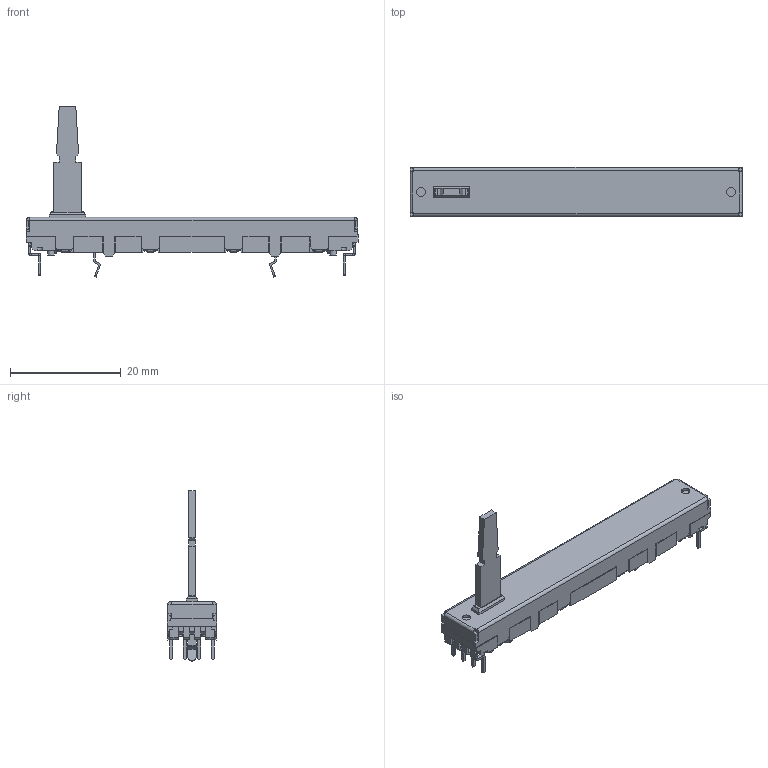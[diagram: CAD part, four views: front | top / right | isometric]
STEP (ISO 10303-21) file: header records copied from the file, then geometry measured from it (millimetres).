
FILE_DESCRIPTION (( 'STEP AP214' ), '1' );
FILE_NAME ('RS45112A400G.STEP', '2012-02-17T06:19:44', ( '' ), ( '' ), 'SwSTEP 2.0', 'SolidWorks 2010', '' );
FILE_SCHEMA (( 'AUTOMOTIVE_DESIGN' ));
Length unit declared in the file: millimetre
Products named in the file (1): RS45112A400G
Bounding box: 60 x 9 x 30.8 mm (x, y, z)
Volume: 3241.2 mm3; surface area: 2547.6 mm2
Topology: 1 solids, 1 shells, 843 faces, 2203 edges, 1366 vertices
Faces by surface type: plane 715, cylinder 109, bspline 19
Entity records: 34453 total; most frequent: CARTESIAN_POINT 4844, ORIENTED_EDGE 4406, DIRECTION 3955, EDGE_CURVE 2203, VECTOR 1893, LINE 1893, VERTEX_POINT 1366, AXIS2_PLACEMENT_3D 1031
